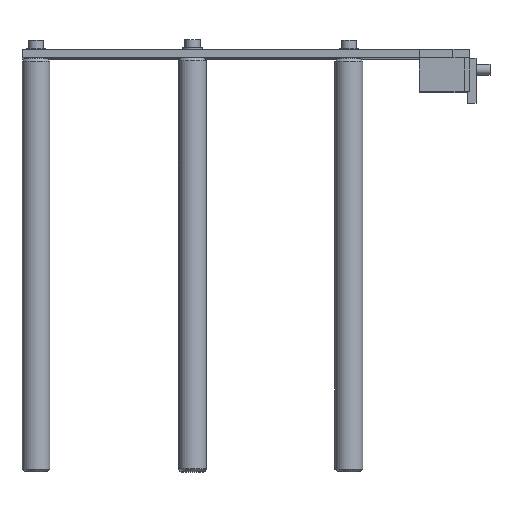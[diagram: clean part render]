
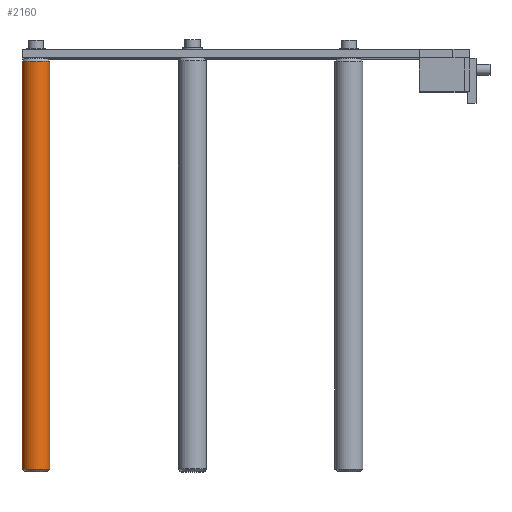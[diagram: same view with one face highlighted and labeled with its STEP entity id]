
A CAD part, top view. The second image highlights one B-rep face of the part: STEP entity #2160.
In plain terms, the highlighted cylindrical face has radius 5 mm (diameter 10 mm), a full revolution.
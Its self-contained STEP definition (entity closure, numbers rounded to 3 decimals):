
#2160 = ADVANCED_FACE('',(#2161),#2175,.T.);
#2161 = FACE_BOUND('',#2162,.T.);
#2162 = EDGE_LOOP('',(#2163,#2193,#2220,#2221));
#2163 = ORIENTED_EDGE('',*,*,#2164,.T.);
#2164 = EDGE_CURVE('',#2165,#2167,#2169,.T.);
#2165 = VERTEX_POINT('',#2166);
#2166 = CARTESIAN_POINT('',(6.,-145.,5.));
#2167 = VERTEX_POINT('',#2168);
#2168 = CARTESIAN_POINT('',(6.,1.,5.));
#2169 = SEAM_CURVE('',#2170,(#2174,#2186),.PCURVE_S1.);
#2170 = LINE('',#2171,#2172);
#2171 = CARTESIAN_POINT('',(6.,-146.,5.));
#2172 = VECTOR('',#2173,1.);
#2173 = DIRECTION('',(0.,1.,0.));
#2174 = PCURVE('',#2175,#2180);
#2175 = CYLINDRICAL_SURFACE('',#2176,5.);
#2176 = AXIS2_PLACEMENT_3D('',#2177,#2178,#2179);
#2177 = CARTESIAN_POINT('',(6.,-146.,0.));
#2178 = DIRECTION('',(0.,1.,0.));
#2179 = DIRECTION('',(0.,-0.,1.));
#2180 = DEFINITIONAL_REPRESENTATION('',(#2181),#2185);
#2181 = LINE('',#2182,#2183);
#2182 = CARTESIAN_POINT('',(6.283,-0.));
#2183 = VECTOR('',#2184,1.);
#2184 = DIRECTION('',(0.,1.));
#2185 = ( GEOMETRIC_REPRESENTATION_CONTEXT(2) 
PARAMETRIC_REPRESENTATION_CONTEXT() REPRESENTATION_CONTEXT('2D SPACE',''
  ) );
#2186 = PCURVE('',#2175,#2187);
#2187 = DEFINITIONAL_REPRESENTATION('',(#2188),#2192);
#2188 = LINE('',#2189,#2190);
#2189 = CARTESIAN_POINT('',(0.,-0.));
#2190 = VECTOR('',#2191,1.);
#2191 = DIRECTION('',(0.,1.));
#2192 = ( GEOMETRIC_REPRESENTATION_CONTEXT(2) 
PARAMETRIC_REPRESENTATION_CONTEXT() REPRESENTATION_CONTEXT('2D SPACE',''
  ) );
#2193 = ORIENTED_EDGE('',*,*,#2194,.F.);
#2194 = EDGE_CURVE('',#2167,#2167,#2195,.T.);
#2195 = SURFACE_CURVE('',#2196,(#2201,#2208),.PCURVE_S1.);
#2196 = CIRCLE('',#2197,5.);
#2197 = AXIS2_PLACEMENT_3D('',#2198,#2199,#2200);
#2198 = CARTESIAN_POINT('',(6.,1.,0.));
#2199 = DIRECTION('',(0.,1.,0.));
#2200 = DIRECTION('',(0.,-0.,1.));
#2201 = PCURVE('',#2175,#2202);
#2202 = DEFINITIONAL_REPRESENTATION('',(#2203),#2207);
#2203 = LINE('',#2204,#2205);
#2204 = CARTESIAN_POINT('',(0.,147.));
#2205 = VECTOR('',#2206,1.);
#2206 = DIRECTION('',(1.,0.));
#2207 = ( GEOMETRIC_REPRESENTATION_CONTEXT(2) 
PARAMETRIC_REPRESENTATION_CONTEXT() REPRESENTATION_CONTEXT('2D SPACE',''
  ) );
#2208 = PCURVE('',#2209,#2214);
#2209 = CONICAL_SURFACE('',#2210,5.,0.785);
#2210 = AXIS2_PLACEMENT_3D('',#2211,#2212,#2213);
#2211 = CARTESIAN_POINT('',(6.,1.,0.));
#2212 = DIRECTION('',(-0.,-1.,-0.));
#2213 = DIRECTION('',(0.,0.,1.));
#2214 = DEFINITIONAL_REPRESENTATION('',(#2215),#2219);
#2215 = LINE('',#2216,#2217);
#2216 = CARTESIAN_POINT('',(-0.,-0.));
#2217 = VECTOR('',#2218,1.);
#2218 = DIRECTION('',(-1.,-0.));
#2219 = ( GEOMETRIC_REPRESENTATION_CONTEXT(2) 
PARAMETRIC_REPRESENTATION_CONTEXT() REPRESENTATION_CONTEXT('2D SPACE',''
  ) );
#2220 = ORIENTED_EDGE('',*,*,#2164,.F.);
#2221 = ORIENTED_EDGE('',*,*,#2222,.T.);
#2222 = EDGE_CURVE('',#2165,#2165,#2223,.T.);
#2223 = SURFACE_CURVE('',#2224,(#2229,#2236),.PCURVE_S1.);
#2224 = CIRCLE('',#2225,5.);
#2225 = AXIS2_PLACEMENT_3D('',#2226,#2227,#2228);
#2226 = CARTESIAN_POINT('',(6.,-145.,0.));
#2227 = DIRECTION('',(0.,1.,0.));
#2228 = DIRECTION('',(0.,-0.,1.));
#2229 = PCURVE('',#2175,#2230);
#2230 = DEFINITIONAL_REPRESENTATION('',(#2231),#2235);
#2231 = LINE('',#2232,#2233);
#2232 = CARTESIAN_POINT('',(0.,1.));
#2233 = VECTOR('',#2234,1.);
#2234 = DIRECTION('',(1.,0.));
#2235 = ( GEOMETRIC_REPRESENTATION_CONTEXT(2) 
PARAMETRIC_REPRESENTATION_CONTEXT() REPRESENTATION_CONTEXT('2D SPACE',''
  ) );
#2236 = PCURVE('',#2237,#2242);
#2237 = CONICAL_SURFACE('',#2238,5.,0.785);
#2238 = AXIS2_PLACEMENT_3D('',#2239,#2240,#2241);
#2239 = CARTESIAN_POINT('',(6.,-145.,0.));
#2240 = DIRECTION('',(0.,1.,0.));
#2241 = DIRECTION('',(0.,-0.,1.));
#2242 = DEFINITIONAL_REPRESENTATION('',(#2243),#2247);
#2243 = LINE('',#2244,#2245);
#2244 = CARTESIAN_POINT('',(0.,-0.));
#2245 = VECTOR('',#2246,1.);
#2246 = DIRECTION('',(1.,-0.));
#2247 = ( GEOMETRIC_REPRESENTATION_CONTEXT(2) 
PARAMETRIC_REPRESENTATION_CONTEXT() REPRESENTATION_CONTEXT('2D SPACE',''
  ) );
